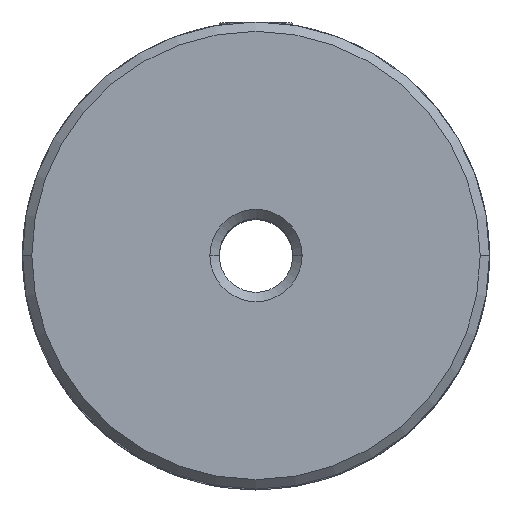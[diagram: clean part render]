
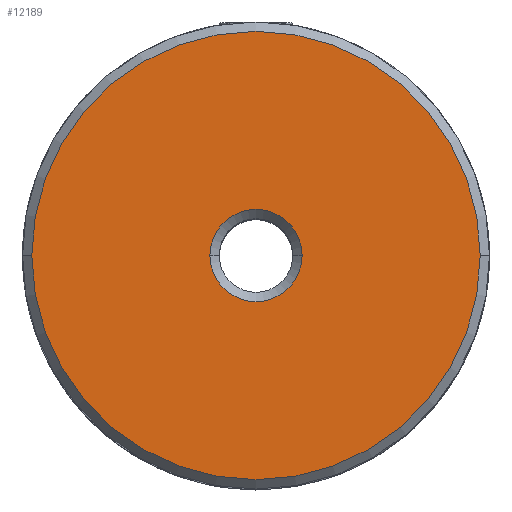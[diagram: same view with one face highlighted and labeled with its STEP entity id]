
A CAD part, top view. The second image highlights one B-rep face of the part: STEP entity #12189.
In plain terms, the highlighted planar face has unit normal (0, 0, 1).
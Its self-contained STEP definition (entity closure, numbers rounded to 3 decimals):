
#5615=CARTESIAN_POINT('',(11.811,20.312,-8.602));
#5616=DIRECTION('',(0.,0.,-1.));
#5617=DIRECTION('',(-1.,0.,0.));
#5618=AXIS2_PLACEMENT_3D('',#5615,#5616,#5617);
#5637=CARTESIAN_POINT('',(11.811,20.312,-8.602));
#5638=DIRECTION('',(0.,0.,-1.));
#5639=DIRECTION('',(1.,0.,0.));
#5640=AXIS2_PLACEMENT_3D('',#5637,#5638,#5639);
#5645=CARTESIAN_POINT('',(11.811,20.312,-8.602));
#5646=DIRECTION('',(0.,0.,1.));
#5647=DIRECTION('',(1.,0.,0.));
#5648=AXIS2_PLACEMENT_3D('',#5645,#5646,#5647);
#5653=CARTESIAN_POINT('',(11.811,20.312,-8.602));
#5654=DIRECTION('',(0.,0.,1.));
#5655=DIRECTION('',(-1.,0.,0.));
#5656=AXIS2_PLACEMENT_3D('',#5653,#5654,#5655);
#7571=CARTESIAN_POINT('',(20.955,20.312,-8.602));
#7572=VERTEX_POINT('',#7571);
#7573=CARTESIAN_POINT('',(2.667,20.312,-8.602));
#7574=VERTEX_POINT('',#7573);
#7575=CARTESIAN_POINT('',(9.93,20.312,-8.602));
#7576=CARTESIAN_POINT('',(13.692,20.312,-8.602));
#7577=VERTEX_POINT('',#7575);
#7578=VERTEX_POINT('',#7576);
#12174=CARTESIAN_POINT('',(11.811,20.312,
-8.602));
#12175=DIRECTION('',(0.,0.,1.));
#12176=DIRECTION('',(1.,0.,0.));
#12177=AXIS2_PLACEMENT_3D('',#12174,#12175,#12176);
#12178=PLANE('',#12177);
#12180=ORIENTED_EDGE('',*,*,#12179,.F.);
#12182=ORIENTED_EDGE('',*,*,#12181,.F.);
#12183=EDGE_LOOP('',(#12180,#12182));
#12184=FACE_OUTER_BOUND('',#12183,.F.);
#12185=ORIENTED_EDGE('',*,*,#12154,.F.);
#12186=ORIENTED_EDGE('',*,*,#12169,.F.);
#12187=EDGE_LOOP('',(#12185,#12186));
#12188=FACE_BOUND('',#12187,.F.);
#5619=CIRCLE('',#5618,1.881);
#5641=CIRCLE('',#5640,1.881);
#5649=CIRCLE('',#5648,9.144);
#5657=CIRCLE('',#5656,9.144);
#12154=EDGE_CURVE('',#7577,#7578,#5619,.T.);
#12169=EDGE_CURVE('',#7578,#7577,#5641,.T.);
#12179=EDGE_CURVE('',#7572,#7574,#5649,.T.);
#12181=EDGE_CURVE('',#7574,#7572,#5657,.T.);
#12189=ADVANCED_FACE('',(#12184,#12188),#12178,.T.);
